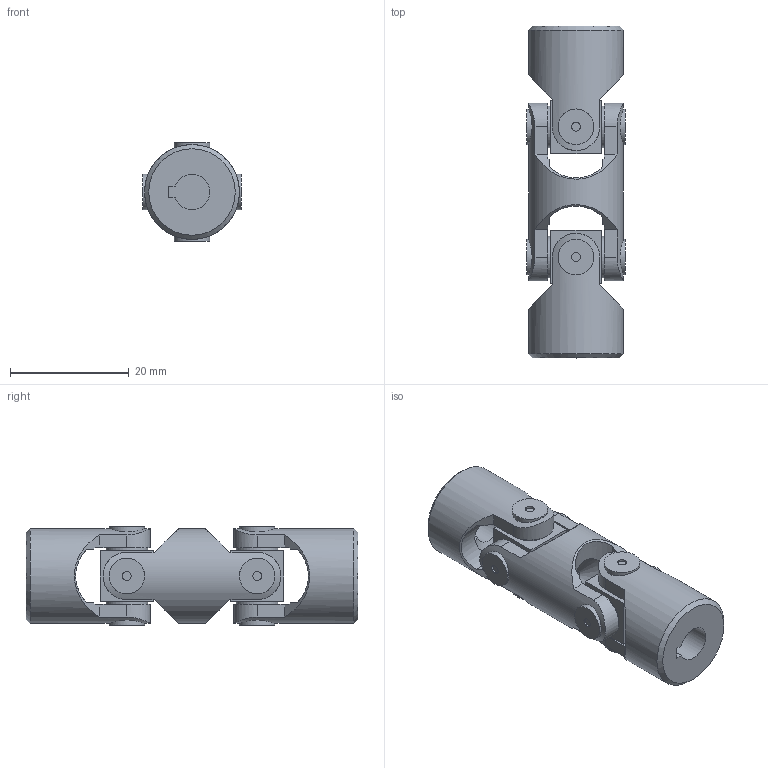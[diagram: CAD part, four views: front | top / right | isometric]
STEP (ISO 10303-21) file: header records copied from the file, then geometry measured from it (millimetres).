
FILE_DESCRIPTION(/* description */ (''),/* implementation_level */ '2;1');
FILE_NAME(/* name */ '\\SRV2016\Societa\Stefano\Disegni 3D\00Catalogo 3D\02Doppi GD-GBD\SG0D062C.stp',/* time_stamp */ '2021-11-22T16:52:12+01:00',/* author */ ('acquisti'),/* organization */ (''),/* preprocessor_version */ 'ST-DEVELOPER v15.6',/* originating_system */ 'Autodesk Inventor 2015',/* authorisation */ '');
FILE_SCHEMA (('AUTOMOTIVE_DESIGN { 1 0 10303 214 3 1 1 }'));
Length unit declared in the file: millimetre
Products named in the file (4): 01G MOD; 01-02G SFE; 01G MOC; Ø16_01GD-00_SG0D0600
Assembly tree (5 placements, depth 2):
  Ø16_01GD-00_SG0D0600
    01G MOD
    01-02G SFE  x2
    01G MOC  x2
Bounding box: 16.7 x 56 x 16.7 mm (x, y, z)
Volume: 7771.8 mm3; surface area: 5599.3 mm2
Topology: 5 solids, 5 shells, 143 faces, 357 edges, 244 vertices
Faces by surface type: plane 76, cylinder 41, cone 22, torus 4
Full cylindrical faces by diameter (mm): 1.5 x8, 6 x8, 7 x8, 8.5 x4, 16 x3
Entity records: 3297 total; most frequent: CARTESIAN_POINT 1161, DIRECTION 407, ORIENTED_EDGE 406, EDGE_CURVE 203, AXIS2_PLACEMENT_3D 176, VERTEX_POINT 153, EDGE_LOOP 142, FACE_OUTER_BOUND 97
